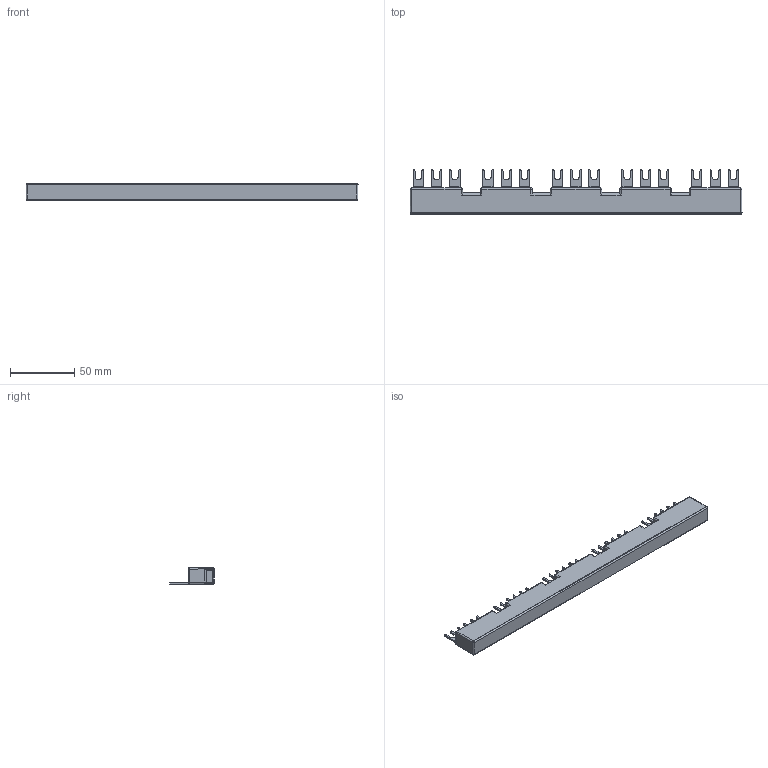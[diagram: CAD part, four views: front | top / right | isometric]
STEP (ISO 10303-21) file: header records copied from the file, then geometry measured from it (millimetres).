
FILE_DESCRIPTION((''),'2;1');
FILE_NAME('54-5_COMMONING_LINK_R1_ASM','2023-07-17T13:00:23',('design1'),(''),'CREO PARAMETRIC BY PTC INC, 2022284','CREO PARAMETRIC BY PTC INC, 2022284','');
FILE_SCHEMA(('CONFIG_CONTROL_DESIGN'));
Length unit declared in the file: millimetre
Products named in the file (6): 54-5_HOUSING_R1; 54-5_LINK_CONTACT_03; 54-5_LINK_CONTACT_02; 54-5_LINK_CONTACT_01; 54-5_HOUSING_COVER_R1; 54-5_COMMONING_LINK_R1_ASM
Assembly tree (5 placements, depth 2):
  54-5_COMMONING_LINK_R1_ASM
    54-5_HOUSING_R1
    54-5_LINK_CONTACT_03
    54-5_LINK_CONTACT_02
    54-5_LINK_CONTACT_01
    54-5_HOUSING_COVER_R1
Bounding box: 257.5 x 34.8 x 13.06 mm (x, y, z)
Volume: 45005.5 mm3; surface area: 75324.3 mm2
Topology: 5 solids, 5 shells, 863 faces, 2483 edges, 1606 vertices
Faces by surface type: plane 616, cylinder 207, sphere 24, cone 12, torus 4
Entity records: 28200 total; most frequent: CARTESIAN_POINT 5127, ORIENTED_EDGE 4966, DIRECTION 4637, EDGE_CURVE 2483, VECTOR 1973, LINE 1973, VERTEX_POINT 1606, AXIS2_PLACEMENT_3D 1332
